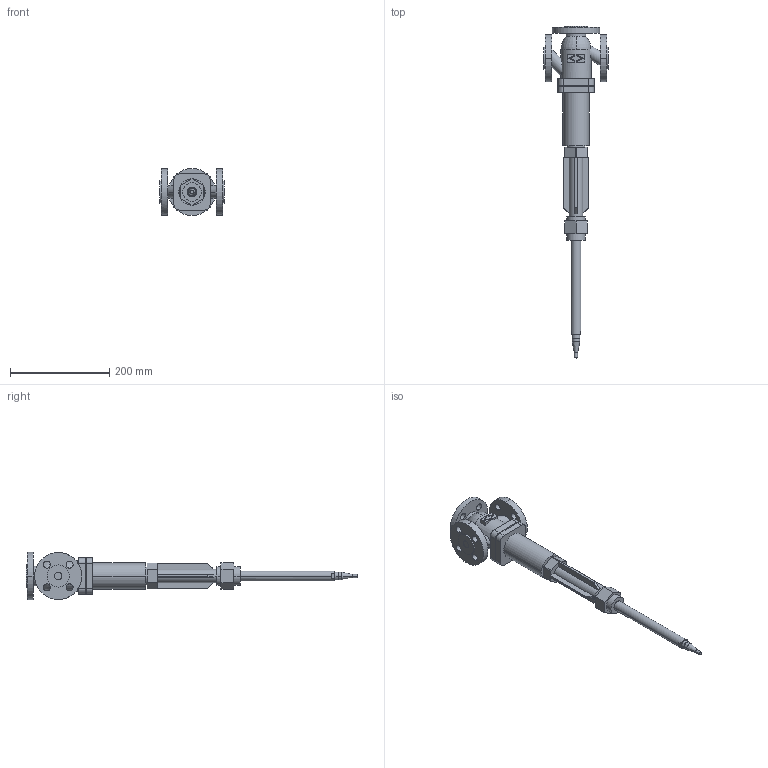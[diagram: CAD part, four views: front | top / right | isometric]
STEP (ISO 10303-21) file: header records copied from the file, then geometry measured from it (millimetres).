
FILE_DESCRIPTION(('CoCreate Modeling STEP Export'),'2;1');
FILE_NAME('c000004784.stp','2011-09-23T10:20:59',(''),(''),'CoCreate Modeling STEP processor for AP214 (Solid Model)','CoCreate Modeling 17.0 01-Apr-2010 (C) Parametric Technology GmbH','');
FILE_SCHEMA(('AUTOMOTIVE_DESIGN { 1 0 10303 214 1 1 1 1 }'));
Length unit declared in the file: millimetre
Products named in the file (1): 1
Bounding box: 130 x 670.04 x 95 mm (x, y, z)
Volume: 1190297.1 mm3; surface area: 163698.7 mm2
Topology: 1 solids, 1 shells, 189 faces, 468 edges, 305 vertices
Faces by surface type: cylinder 90, plane 89, cone 8, torus 2
Entity records: 6755 total; most frequent: CARTESIAN_POINT 1008, ORIENTED_EDGE 936, DIRECTION 792, EDGE_CURVE 468, VERTEX_POINT 305, AXIS2_PLACEMENT_3D 272, VECTOR 248, LINE 248
